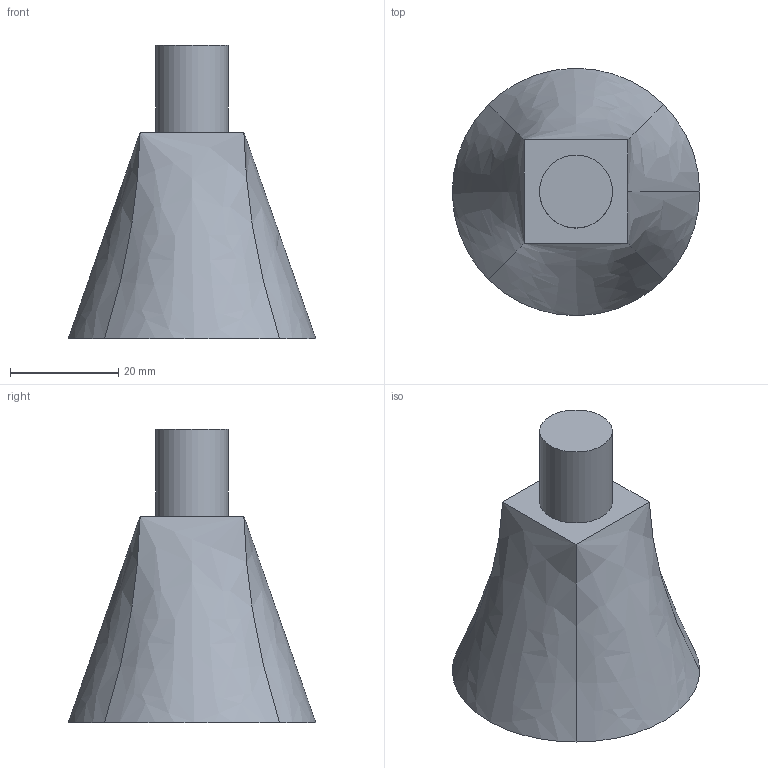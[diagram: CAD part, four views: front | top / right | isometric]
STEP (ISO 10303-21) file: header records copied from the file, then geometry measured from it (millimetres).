
FILE_DESCRIPTION(('Mechanical CAD reference from nasji.com'),'2;1');
FILE_NAME('NASJI.step','',(''),(''),'','NASJI distribution','');
FILE_SCHEMA(('AUTOMOTIVE_DESIGN { 1 0 10303 214 1 1 1 1 }'));
Length unit declared in the file: millimetre
Products named in the file (1): Open CASCADE STEP translator 7.8 169
Bounding box: 45.8 x 45.79 x 54.3 mm (x, y, z)
Volume: 36274.2 mm3; surface area: 6897.8 mm2
Topology: 1 solids, 1 shells, 9 faces, 18 edges, 12 vertices
Faces by surface type: bspline 5, plane 3, cylinder 1
Full cylindrical faces by diameter (mm): 13.5 x1
Entity records: 713 total; most frequent: CARTESIAN_POINT 376, DIRECTION 41, ORIENTED_EDGE 36, PCURVE 36, DEFINITIONAL_REPRESENTATION 36, B_SPLINE_CURVE_WITH_KNOTS 25, LINE 25, VECTOR 25
